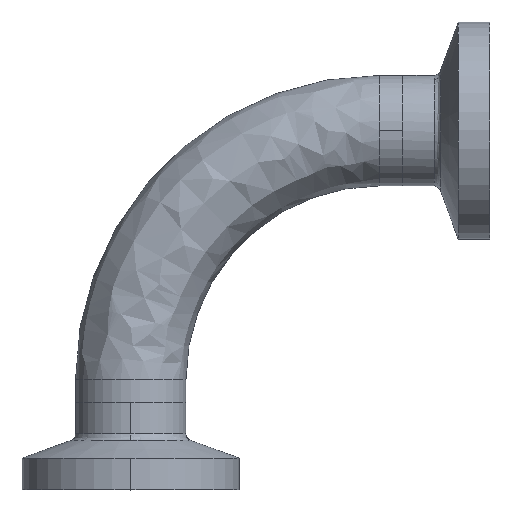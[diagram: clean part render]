
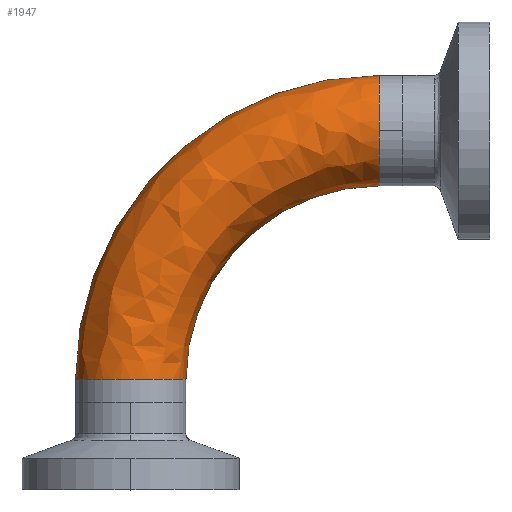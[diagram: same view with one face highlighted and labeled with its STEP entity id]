
A CAD part, top view. The second image highlights one B-rep face of the part: STEP entity #1947.
In plain terms, the highlighted free-form (B-spline) face has degree [3, 3] with [4, 4] control points.
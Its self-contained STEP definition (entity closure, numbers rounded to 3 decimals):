
#46 = DIRECTION ( 'NONE',  ( 0., 1., 0. ) ) ;
#58 = EDGE_CURVE ( 'NONE', #484, #2060, #87, .T. ) ;
#64 = CARTESIAN_POINT ( 'NONE',  ( 28.6, 31.3, 0. ) ) ;
#87 = CIRCLE ( 'NONE', #175, 34.95 ) ;
#91 = CARTESIAN_POINT ( 'NONE',  ( 6.35, 2.7, 12.7 ) ) ;
#105 = CARTESIAN_POINT ( 'NONE',  ( 28.6, 37.65, 12.7 ) ) ;
#111 = CARTESIAN_POINT ( 'NONE',  ( 8.127, 37.65, 12.7 ) ) ;
#123 = CARTESIAN_POINT ( 'NONE',  ( -6.35, 23.173, 12.7 ) ) ;
#153 = DIRECTION ( 'NONE',  ( -1., 0., 0. ) ) ;
#175 = AXIS2_PLACEMENT_3D ( 'NONE', #870, #893, #914 ) ;
#193 = DIRECTION ( 'NONE',  ( 0., 1., 0. ) ) ;
#220 = EDGE_CURVE ( 'NONE', #552, #632, #339, .T. ) ;
#223 = CARTESIAN_POINT ( 'NONE',  ( 28.6, 37.65, 0. ) ) ;
#247 = CARTESIAN_POINT ( 'NONE',  ( -6.35, 2.7, 12.7 ) ) ;
#253 = FACE_OUTER_BOUND ( 'NONE', #705, .T. ) ;
#258 = CARTESIAN_POINT ( 'NONE',  ( 28.6, 37.65, 0. ) ) ;
#264 = CARTESIAN_POINT ( 'NONE',  ( 8.127, 37.65, 0. ) ) ;
#291 = CARTESIAN_POINT ( 'NONE',  ( 28.6, 24.95, 0. ) ) ;
#330 = CARTESIAN_POINT ( 'NONE',  ( 28.6, 31.3, 0. ) ) ;
#339 = CIRCLE ( 'NONE', #1287, 6.35 ) ;
#405 = EDGE_CURVE ( 'NONE', #933, #552, #1473, .T. ) ;
#441 = AXIS2_PLACEMENT_3D ( 'NONE', #1679, #1670, #1228 ) ;
#444 = CARTESIAN_POINT ( 'NONE',  ( -6.35, 2.7, 0. ) ) ;
#484 = VERTEX_POINT ( 'NONE', #444 ) ;
#523 = ORIENTED_EDGE ( 'NONE', *, *, #1454, .T. ) ;
#543 = AXIS2_PLACEMENT_3D ( 'NONE', #64, #2041, #46 ) ;
#552 = VERTEX_POINT ( 'NONE', #291 ) ;
#590 = CARTESIAN_POINT ( 'NONE',  ( -6.35, 23.173, 0. ) ) ;
#632 = VERTEX_POINT ( 'NONE', #1575 ) ;
#652 = ORIENTED_EDGE ( 'NONE', *, *, #857, .T. ) ;
#705 = EDGE_LOOP ( 'NONE', ( #652, #1050, #1061, #523, #2000 ) ) ;
#721 = CARTESIAN_POINT ( 'NONE',  ( -6.35, 2.7, 0. ) ) ;
#857 = EDGE_CURVE ( 'NONE', #484, #933, #1182, .T. ) ;
#870 = CARTESIAN_POINT ( 'NONE',  ( 28.6, 2.7, 0. ) ) ;
#893 = DIRECTION ( 'NONE',  ( 0., 0., -1. ) ) ;
#914 = DIRECTION ( 'NONE',  ( -1., 0., 0. ) ) ;
#933 = VERTEX_POINT ( 'NONE', #1967 ) ;
#1050 = ORIENTED_EDGE ( 'NONE', *, *, #405, .T. ) ;
#1061 = ORIENTED_EDGE ( 'NONE', *, *, #220, .T. ) ;
#1067 = CARTESIAN_POINT ( 'NONE',  ( 15.566, 24.95, 0. ) ) ;
#1178 = DIRECTION ( 'NONE',  ( 0., 1., 0. ) ) ;
#1182 = CIRCLE ( 'NONE', #1522, 6.35 ) ;
#1228 = DIRECTION ( 'NONE',  ( -1., 0., 0. ) ) ;
#1287 = AXIS2_PLACEMENT_3D ( 'NONE', #330, #153, #193 ) ;
#1358 = DIRECTION ( 'NONE',  ( -1., 0., 0. ) ) ;
#1367 = CIRCLE ( 'NONE', #543, 6.35 ) ;
#1409 = CARTESIAN_POINT ( 'NONE',  ( 28.6, 24.95, 0. ) ) ;
#1454 = EDGE_CURVE ( 'NONE', #632, #2060, #1367, .T. ) ;
#1473 = CIRCLE ( 'NONE', #441, 22.25 ) ;
#1522 = AXIS2_PLACEMENT_3D ( 'NONE', #2070, #1178, #1358 ) ;
#1545 = CARTESIAN_POINT ( 'NONE',  ( 6.35, 2.7, 0. ) ) ;
#1553 = CARTESIAN_POINT ( 'NONE',  ( 6.35, 15.734, 0. ) ) ;
#1575 = CARTESIAN_POINT ( 'NONE',  ( 28.6, 31.3, 6.35 ) ) ;
#1583 =( BOUNDED_SURFACE ( )  B_SPLINE_SURFACE ( 3, 3, ( 
 ( #721, #590, #264, #258 ),
 ( #247, #123, #111, #105 ),
 ( #91, #1875, #2031, #1751 ),
 ( #1545, #1553, #1067, #1409 ) ),
 .UNSPECIFIED., .F., .F., .T. ) 
 B_SPLINE_SURFACE_WITH_KNOTS ( ( 4, 4 ),
 ( 4, 4 ),
 ( 0., 1. ),
 ( 0., 1. ),
 .UNSPECIFIED. ) 
 GEOMETRIC_REPRESENTATION_ITEM ( )  RATIONAL_B_SPLINE_SURFACE ( (
 ( 1., 0.805, 0.805, 1.),
 ( 0.333, 0.268, 0.268, 0.333),
 ( 0.333, 0.268, 0.268, 0.333),
 ( 1., 0.805, 0.805, 1.) ) ) 
 REPRESENTATION_ITEM ( '' )  SURFACE ( )  );
#1670 = DIRECTION ( 'NONE',  ( 0., 0., -1. ) ) ;
#1679 = CARTESIAN_POINT ( 'NONE',  ( 28.6, 2.7, 0. ) ) ;
#1751 = CARTESIAN_POINT ( 'NONE',  ( 28.6, 24.95, 12.7 ) ) ;
#1875 = CARTESIAN_POINT ( 'NONE',  ( 6.35, 15.734, 12.7 ) ) ;
#1947 = ADVANCED_FACE ( 'NONE', ( #253 ), #1583, .T. ) ;
#1967 = CARTESIAN_POINT ( 'NONE',  ( 6.35, 2.7, 0. ) ) ;
#2000 = ORIENTED_EDGE ( 'NONE', *, *, #58, .F. ) ;
#2031 = CARTESIAN_POINT ( 'NONE',  ( 15.566, 24.95, 12.7 ) ) ;
#2041 = DIRECTION ( 'NONE',  ( -1., 0., 0. ) ) ;
#2060 = VERTEX_POINT ( 'NONE', #223 ) ;
#2070 = CARTESIAN_POINT ( 'NONE',  ( 0., 2.7, 0. ) ) ;
